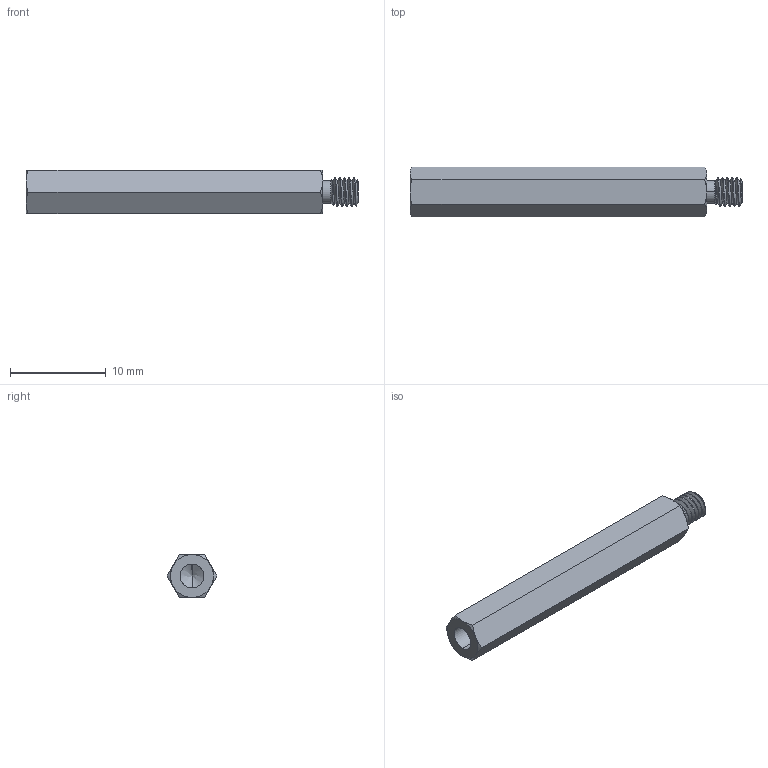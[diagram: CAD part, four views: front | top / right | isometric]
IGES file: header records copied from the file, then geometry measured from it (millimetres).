
Start section: SolidWorks IGES file using analytic representation for surfaces
Global section: file name: C:\Users\Achilles\Dropbox\BR-Engineering\PROJECTS\BROV2\MODELS\DEVELOPMENT\OLD\STANDOFF-M3X0.5-31-MF\STANDOFF-M3X0.5-31-MF.IGS; native system: SolidWorks 2016; preprocessor: SolidWorks 2016; author: Achilles; date: 190521.152631; units: millimetre
Bounding box: 34.7 x 5.2 x 4.5 mm (x, y, z)
Surface area: 614.8 mm2 (no closed solid volume)
Topology: 0 solids, 0 shells, 44 faces, 667 edges, 665 vertices
Faces by surface type: revolution 32, bspline 12
